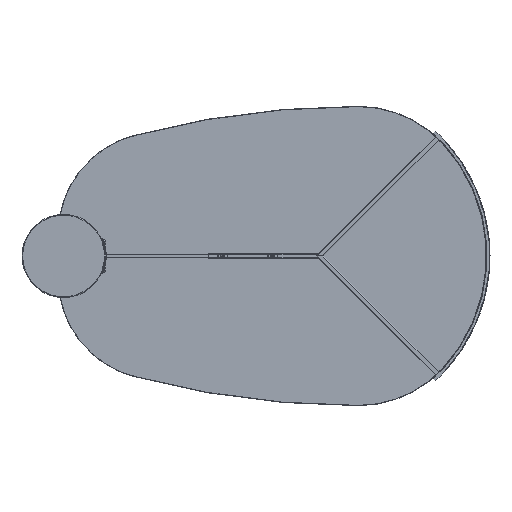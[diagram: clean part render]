
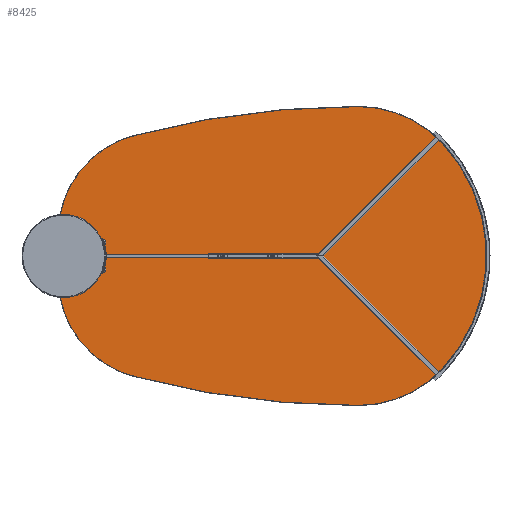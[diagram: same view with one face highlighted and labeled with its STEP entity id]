
A CAD part, front view. The second image highlights one B-rep face of the part: STEP entity #8425.
In plain terms, the highlighted planar face has unit normal (0, -1, 0).
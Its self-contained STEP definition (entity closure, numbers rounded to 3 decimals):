
#45 = DIRECTION ( 'NONE',  ( 0., -1., 0. ) ) ;
#296 = EDGE_CURVE ( 'NONE', #5644, #3840, #7150, .T. ) ;
#311 = DIRECTION ( 'NONE',  ( 0., -1., 0. ) ) ;
#423 = CARTESIAN_POINT ( 'NONE',  ( -115.154, 0., 2195.61 ) ) ;
#492 = EDGE_CURVE ( 'NONE', #1597, #8069, #10056, .T. ) ;
#576 = AXIS2_PLACEMENT_3D ( 'NONE', #4185, #311, #2316 ) ;
#917 = CIRCLE ( 'NONE', #2273, 305.5 ) ;
#980 = VERTEX_POINT ( 'NONE', #9696 ) ;
#1022 = CIRCLE ( 'NONE', #4500, 2644.61 ) ;
#1288 = CIRCLE ( 'NONE', #8256, 500. ) ;
#1338 = CARTESIAN_POINT ( 'NONE',  ( 182.85, 0., -1064.658 ) ) ;
#1597 = VERTEX_POINT ( 'NONE', #11649 ) ;
#1644 = VERTEX_POINT ( 'NONE', #8792 ) ;
#1855 = CARTESIAN_POINT ( 'NONE',  ( 480.853, 0., 66.294 ) ) ;
#1895 = ORIENTED_EDGE ( 'NONE', *, *, #492, .T. ) ;
#1920 = DIRECTION ( 'NONE',  ( 0., -1., 0. ) ) ;
#2042 = CARTESIAN_POINT ( 'NONE',  ( 0., 0., 0. ) ) ;
#2058 = DIRECTION ( 'NONE',  ( 0., -1., 0. ) ) ;
#2207 = CARTESIAN_POINT ( 'NONE',  ( -115.154, 0., -2195.61 ) ) ;
#2273 = AXIS2_PLACEMENT_3D ( 'NONE', #1855, #1920, #10180 ) ;
#2316 = DIRECTION ( 'NONE',  ( 0., 0., -1. ) ) ;
#2656 = CIRCLE ( 'NONE', #11173, 500. ) ;
#3087 = EDGE_CURVE ( 'NONE', #1644, #10270, #9468, .T. ) ;
#3574 = ORIENTED_EDGE ( 'NONE', *, *, #3087, .T. ) ;
#3787 = CARTESIAN_POINT ( 'NONE',  ( -115.154, 0., 104.505 ) ) ;
#3840 = VERTEX_POINT ( 'NONE', #7701 ) ;
#3935 = PLANE ( 'NONE',  #7759 ) ;
#4087 = DIRECTION ( 'NONE',  ( 0., -1., 0. ) ) ;
#4140 = EDGE_LOOP ( 'NONE', ( #8803, #6667, #8498, #9660, #3574, #7288, #1895, #4638 ) ) ;
#4185 = CARTESIAN_POINT ( 'NONE',  ( 480.853, 0., -66.294 ) ) ;
#4228 = CARTESIAN_POINT ( 'NONE',  ( 558.695, 0., -361.711 ) ) ;
#4500 = AXIS2_PLACEMENT_3D ( 'NONE', #423, #2058, #4965 ) ;
#4638 = ORIENTED_EDGE ( 'NONE', *, *, #5137, .T. ) ;
#4864 = DIRECTION ( 'NONE',  ( 0., 0., -1. ) ) ;
#4965 = DIRECTION ( 'NONE',  ( 0., 0., -1. ) ) ;
#4986 = CARTESIAN_POINT ( 'NONE',  ( 298., 0., 0. ) ) ;
#5037 = VERTEX_POINT ( 'NONE', #9010 ) ;
#5137 = EDGE_CURVE ( 'NONE', #8069, #5644, #1022, .T. ) ;
#5621 = DIRECTION ( 'NONE',  ( 0., -1., 0. ) ) ;
#5629 = CARTESIAN_POINT ( 'NONE',  ( -115.154, 0., -104.505 ) ) ;
#5644 = VERTEX_POINT ( 'NONE', #4228 ) ;
#5740 = DIRECTION ( 'NONE',  ( 0., 0., -1. ) ) ;
#6167 = AXIS2_PLACEMENT_3D ( 'NONE', #3787, #5621, #8545 ) ;
#6256 = CARTESIAN_POINT ( 'NONE',  ( -115.154, 0., -449. ) ) ;
#6537 = EDGE_CURVE ( 'NONE', #3840, #5037, #2656, .T. ) ;
#6667 = ORIENTED_EDGE ( 'NONE', *, *, #6537, .T. ) ;
#7035 = EDGE_CURVE ( 'NONE', #5037, #980, #917, .T. ) ;
#7150 = CIRCLE ( 'NONE', #576, 305.5 ) ;
#7288 = ORIENTED_EDGE ( 'NONE', *, *, #10210, .T. ) ;
#7507 = DIRECTION ( 'NONE',  ( 0., 0., -1. ) ) ;
#7560 = DIRECTION ( 'NONE',  ( 0., -1., 0. ) ) ;
#7638 = DIRECTION ( 'NONE',  ( 0., 0., -1. ) ) ;
#7701 = CARTESIAN_POINT ( 'NONE',  ( 768.06, 0., -170.422 ) ) ;
#7759 = AXIS2_PLACEMENT_3D ( 'NONE', #1338, #8678, #7638 ) ;
#8069 = VERTEX_POINT ( 'NONE', #6256 ) ;
#8256 = AXIS2_PLACEMENT_3D ( 'NONE', #2042, #7560, #5740 ) ;
#8425 = ADVANCED_FACE ( 'NONE', ( #9527 ), #3935, .T. ) ;
#8498 = ORIENTED_EDGE ( 'NONE', *, *, #7035, .T. ) ;
#8545 = DIRECTION ( 'NONE',  ( 0., 0., -1. ) ) ;
#8678 = DIRECTION ( 'NONE',  ( 0., -1., 0. ) ) ;
#8792 = CARTESIAN_POINT ( 'NONE',  ( -115.154, 0., 449. ) ) ;
#8803 = ORIENTED_EDGE ( 'NONE', *, *, #296, .T. ) ;
#8989 = AXIS2_PLACEMENT_3D ( 'NONE', #2207, #9493, #4864 ) ;
#9010 = CARTESIAN_POINT ( 'NONE',  ( 768.06, 0., 170.422 ) ) ;
#9468 = CIRCLE ( 'NONE', #6167, 344.495 ) ;
#9493 = DIRECTION ( 'NONE',  ( 0., -1., 0. ) ) ;
#9527 = FACE_OUTER_BOUND ( 'NONE', #4140, .T. ) ;
#9660 = ORIENTED_EDGE ( 'NONE', *, *, #11090, .T. ) ;
#9666 = AXIS2_PLACEMENT_3D ( 'NONE', #5629, #45, #7507 ) ;
#9678 = DIRECTION ( 'NONE',  ( 0., 0., -1. ) ) ;
#9696 = CARTESIAN_POINT ( 'NONE',  ( 558.695, 0., 361.711 ) ) ;
#9705 = CARTESIAN_POINT ( 'NONE',  ( -370.259, 0., 336.018 ) ) ;
#10056 = CIRCLE ( 'NONE', #9666, 344.495 ) ;
#10180 = DIRECTION ( 'NONE',  ( 0., 0., -1. ) ) ;
#10210 = EDGE_CURVE ( 'NONE', #10270, #1597, #1288, .T. ) ;
#10270 = VERTEX_POINT ( 'NONE', #9705 ) ;
#10929 = CIRCLE ( 'NONE', #8989, 2644.61 ) ;
#11090 = EDGE_CURVE ( 'NONE', #980, #1644, #10929, .T. ) ;
#11173 = AXIS2_PLACEMENT_3D ( 'NONE', #4986, #4087, #9678 ) ;
#11649 = CARTESIAN_POINT ( 'NONE',  ( -370.259, 0., -336.018 ) ) ;
